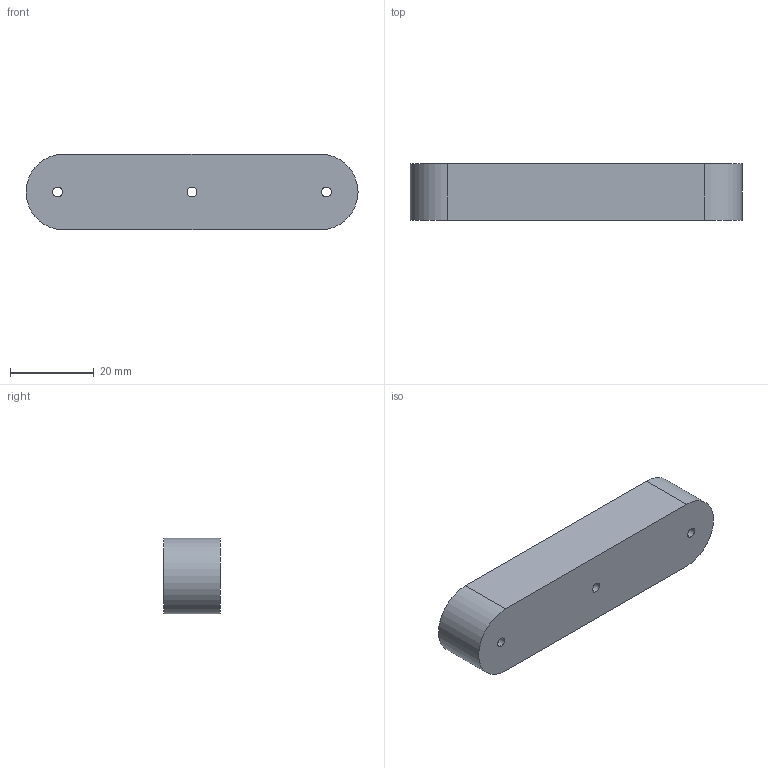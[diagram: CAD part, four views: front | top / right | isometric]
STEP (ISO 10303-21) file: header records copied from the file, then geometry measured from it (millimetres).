
FILE_DESCRIPTION (( 'STEP AP214' ), '1' );
FILE_NAME ('5030_V01_POCKET_CLOSED_DBL_CLIP_SER.STEP', '2025-06-19T15:51:28', ( '' ), ( '' ), 'SwSTEP 2.0', 'SolidWorks 2025', '' );
FILE_SCHEMA (( 'AUTOMOTIVE_DESIGN' ));
Length unit declared in the file: inch
Products named in the file (1): 5030_V01_POCKET_CLOSED_DBL_CLIP_SER
Bounding box: 79.1 x 13.54 x 18.08 mm (x, y, z)
Volume: 8194 mm3; surface area: 6963.2 mm2
Topology: 1 solids, 1 shells, 17 faces, 42 edges, 28 vertices
Faces by surface type: cylinder 10, plane 7
Entity records: 555 total; most frequent: DIRECTION 98, CARTESIAN_POINT 88, ORIENTED_EDGE 84, EDGE_CURVE 42, AXIS2_PLACEMENT_3D 38, VERTEX_POINT 28, EDGE_LOOP 24, VECTOR 22
